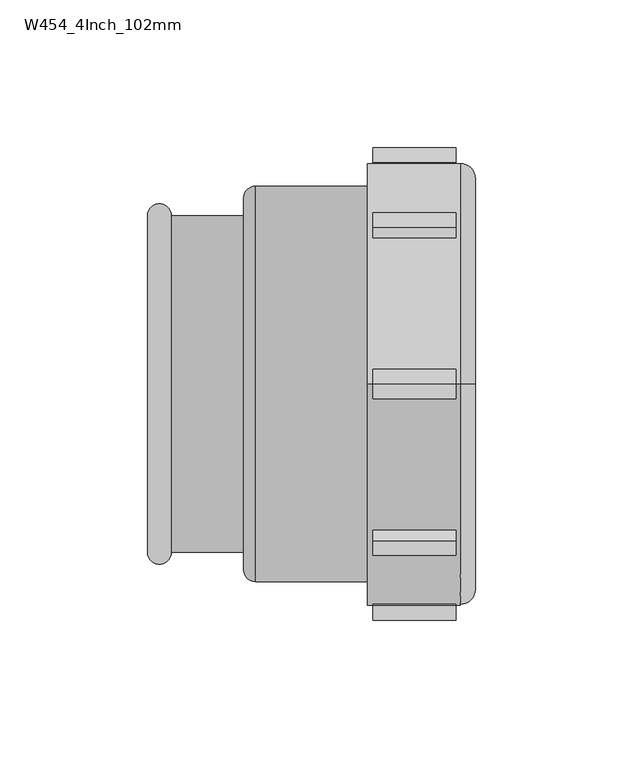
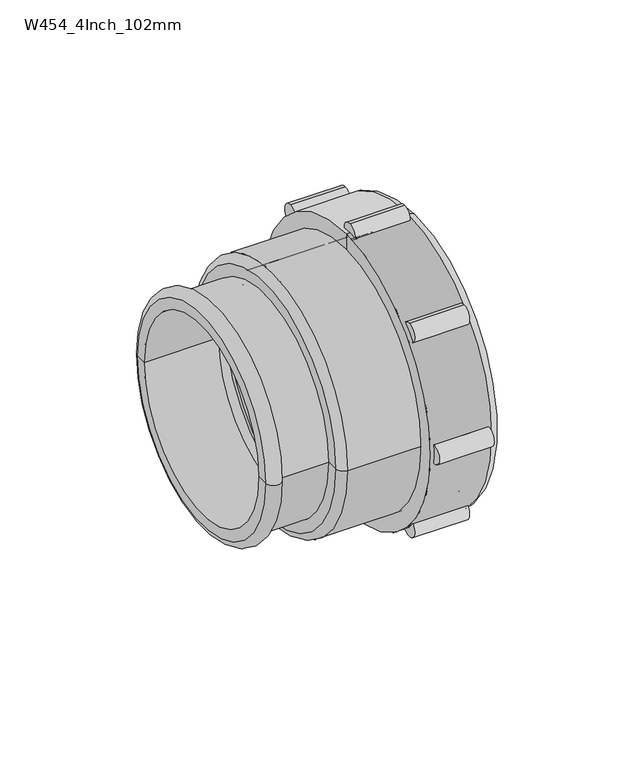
"""IFC4 building model written with IfcOpenShell, lengths in millimetres: pipe fitting geometry, Durapipe_PipeFitting_VulcatheneMechanical_GlassAdaptor_W45 : W454_4Inch_102mm."""

from ifc_helpers import new_model, si_unit, point, frame, frame_2d, origin, place, context, project, spatial, polyline, circle_curve, ellipse_curve, trimmed, segment, composite_curve, outline, extrude, source, transform, mapped, element, save
from ifc_brep_helpers import plane_surface, cylinder_surface, revolved_surface, advanced_brep


def w454_4inch_102mm_2515f706(model_context):
    return source(origin(), model_context, "Body", "SolidModel", [
        advanced_brep(
        [(50.0, 45.3962554, 45.3962554), (50.0, 39.3858477, 39.3858477), (50.0, -39.3858477, -39.3858477), (50.0, -45.3962554, -45.3962554), (28.2, -42.0021428, -42.0021428), (28.2, 42.0021428, 42.0021428), (-8.7, 42.0021428, 42.0021428), (-8.7, -42.0021428, -42.0021428), (-8.7, -40.3757972, -40.3757972), (-8.7, 40.3757972, 40.3757972), (37.3, -40.3757972, -40.3757972), (37.3, 40.3757972, 40.3757972), (37.3, -38.890873, -38.890873), (37.3, 38.890873, 38.890873), (41.8, 39.3858477, 39.3858477), (41.8, 38.890873, 38.890873), (41.8, -38.890873, -38.890873), (41.8, -39.3858477, -39.3858477)],
        [
            (0, 1),
            (1, 2, circle_curve(frame((50.0, 0.0, 0.0), z_axis=(-1.0, 0.0, 0.0), x_axis=(0.0, -0.7071067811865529, -0.7071067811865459)), 55.7)),
            (2, 3),
            (3, 0, circle_curve(frame((50.0, 0.0, 0.0), z_axis=(1.0, 0.0, 0.0), x_axis=(0.0, -0.7071067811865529, -0.7071067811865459)), 64.2)),
            (2, 1, circle_curve(frame((50.0, 0.0, 0.0), z_axis=(-1.0, 0.0, 0.0), x_axis=(0.0, -0.7071067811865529, -0.7071067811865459)), 55.7)),
            (0, 3, circle_curve(frame((50.0, 0.0, 0.0), z_axis=(1.0, 0.0, 0.0), x_axis=(0.0, -0.7071067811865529, -0.7071067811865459)), 64.2)),
            (3, 4),
            (4, 5, circle_curve(frame((28.2, 0.0, 0.0), z_axis=(1.0, 0.0, 0.0), x_axis=(0.0, -0.7071067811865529, -0.7071067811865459)), 59.4)),
            (5, 0),
            (5, 4, circle_curve(frame((28.2, 0.0, 0.0), z_axis=(1.0, 0.0, 0.0), x_axis=(0.0, -0.7071067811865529, -0.7071067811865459)), 59.4)),
            (6, 5),
            (4, 7),
            (7, 6, circle_curve(frame((-8.7, 0.0, 0.0), z_axis=(1.0, 0.0, 0.0), x_axis=(0.0, -0.7071067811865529, -0.7071067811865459)), 59.4)),
            (6, 7, circle_curve(frame((-8.7, 0.0, 0.0), z_axis=(1.0, 0.0, 0.0), x_axis=(0.0, -0.7071067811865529, -0.7071067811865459)), 59.4)),
            (7, 8),
            (8, 9, circle_curve(frame((-8.7, 0.0, 0.0), z_axis=(1.0, 0.0, 0.0), x_axis=(0.0, -0.7071067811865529, -0.7071067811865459)), 57.1)),
            (9, 6),
            (9, 8, circle_curve(frame((-8.7, 0.0, 0.0), z_axis=(1.0, 0.0, 0.0), x_axis=(0.0, -0.7071067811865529, -0.7071067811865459)), 57.1)),
            (8, 10),
            (10, 11, circle_curve(frame((37.3, 0.0, 0.0), z_axis=(1.0, 0.0, 0.0), x_axis=(0.0, -0.7071067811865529, -0.7071067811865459)), 57.1)),
            (11, 9),
            (11, 10, circle_curve(frame((37.3, 0.0, 0.0), z_axis=(1.0, 0.0, 0.0), x_axis=(0.0, -0.7071067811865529, -0.7071067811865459)), 57.1)),
            (10, 12),
            (12, 13, circle_curve(frame((37.3, 0.0, 0.0), z_axis=(1.0, 0.0, 0.0), x_axis=(0.0, -0.7071067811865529, -0.7071067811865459)), 55.0)),
            (13, 11),
            (13, 12, circle_curve(frame((37.3, 0.0, 0.0), z_axis=(1.0, 0.0, 0.0), x_axis=(0.0, -0.7071067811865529, -0.7071067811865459)), 55.0)),
            (14, 15),
            (15, 16, circle_curve(frame((41.8, 0.0, 0.0), z_axis=(-1.0, 0.0, 0.0), x_axis=(0.0, -0.7071067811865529, -0.7071067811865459)), 55.0)),
            (16, 17),
            (17, 14, circle_curve(frame((41.8, 0.0, 0.0), z_axis=(1.0, 0.0, 0.0), x_axis=(0.0, -0.7071067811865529, -0.7071067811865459)), 55.7)),
            (16, 15, circle_curve(frame((41.8, 0.0, 0.0), z_axis=(-1.0, 0.0, 0.0), x_axis=(0.0, -0.7071067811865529, -0.7071067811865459)), 55.0)),
            (14, 17, circle_curve(frame((41.8, 0.0, 0.0), z_axis=(1.0, 0.0, 0.0), x_axis=(0.0, -0.7071067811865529, -0.7071067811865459)), 55.7)),
            (1, 14),
            (17, 2),
            (12, 16),
            (15, 13),
        ],
        [
            plane_surface(frame((50.0, 0.0, 0.0), z_axis=(1.0, 0.0, 0.0), x_axis=(0.0, -0.707106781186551, -0.707106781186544))),
            revolved_surface(polyline([(50.0, -45.3962554, -45.3962554), (28.2, -42.0021428, -42.0021428)]), (55.0, 0.0, 0.0), (-1.0000000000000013, 0.0, 0.0)),
            cylinder_surface(frame((-10.7706557, 0.0, 0.0), z_axis=(-1.0000000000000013, 0.0, 0.0), x_axis=(0.0, -0.7071067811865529, -0.7071067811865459)), 59.4),
            plane_surface(frame((-8.7, 0.0, 0.0), z_axis=(-1.0, 0.0, 0.0), x_axis=(0.0, -0.707106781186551, -0.707106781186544))),
            revolved_surface(polyline([(-8.69999999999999, -40.37579720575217, -40.37579720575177), (37.300000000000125, -40.37579720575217, -40.37579720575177)]), (-12.192991, 0.0, 0.0), (-1.0000000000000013, 0.0, 0.0)),
            plane_surface(frame((37.3, 0.0, 0.0), z_axis=(-1.0, 0.0, 0.0), x_axis=(0.0, -0.707106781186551, -0.707106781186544))),
            plane_surface(frame((41.8, 0.0, 0.0), z_axis=(1.0, 0.0, 0.0), x_axis=(0.0, -0.707106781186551, -0.707106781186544))),
            revolved_surface(polyline([(41.79999999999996, -39.385847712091, -39.38584771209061), (49.999999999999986, -39.385847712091, -39.38584771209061)]), (55.0, 0.0, 0.0), (-1.0000000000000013, 0.0, 0.0)),
            revolved_surface(polyline([(37.299999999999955, -38.89087296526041, -38.89087296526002), (41.79999999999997, -38.89087296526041, -38.89087296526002)]), (51.5661924, 0.0, 0.0), (-1.0000000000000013, 0.0, 0.0)),
        ],
        [
            (0, [[1, 2, 3, 4]]),
            (0, [[5, -1, 6, -3]]),
            (1, [[7, 8, 9, -4]]),
            (1, [[-9, 10, -7, -6]]),
            (2, [[11, -8, 12, 13]]),
            (2, [[-10, -11, 14, -12]]),
            (3, [[15, 16, 17, -13]]),
            (3, [[-17, 18, -15, -14]]),
            (4, [[-16, 19, 20, 21]]),
            (4, [[22, -19, -18, -21]]),
            (5, [[23, 24, 25, -20]]),
            (5, [[-25, 26, -23, -22]]),
            (6, [[27, 28, 29, 30]]),
            (6, [[-29, 31, -27, 32]]),
            (7, [[33, -30, 34, -2]]),
            (7, [[-34, -32, -33, -5]]),
            (8, [[-24, 35, -28, 36]]),
            (8, [[-31, -35, -26, -36]]),
        ],
    ),
        advanced_brep(
        [(19.0, 0.0, 75.0), (50.5, 0.0, 75.0), (50.5, 0.0, -75.0), (19.0, 0.0, -75.0), (19.0, 0.0, 66.0), (19.0, 0.0, -66.0), (55.5, 0.0, 70.0), (55.5, 0.0, 57.5), (55.5, 0.0, -57.5), (55.5, 0.0, -70.0), (50.0, 0.0, 66.0), (50.0, 0.0, -66.0), (50.0, 0.0, 57.5), (50.0, 0.0, -57.5)],
        [
            (0, 1),
            (1, 2, circle_curve(frame((50.5, 0.0, 0.0), z_axis=(-1.0, 0.0, 0.0), x_axis=(0.0, 0.0, -1.0000000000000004)), 75.0)),
            (2, 3),
            (3, 0, circle_curve(frame((19.0, 0.0, 0.0), z_axis=(1.0, 0.0, 0.0), x_axis=(0.0, 0.0, -1.0000000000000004)), 75.0)),
            (2, 1, circle_curve(frame((50.5, 0.0, 0.0), z_axis=(-1.0, 0.0, 0.0), x_axis=(0.0, 0.0, -1.0000000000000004)), 75.0)),
            (0, 3, circle_curve(frame((19.0, 0.0, 0.0), z_axis=(1.0, 0.0, 0.0), x_axis=(0.0, 0.0, -1.0000000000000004)), 75.0)),
            (4, 0),
            (3, 5),
            (5, 4, circle_curve(frame((19.0, 0.0, 0.0), z_axis=(1.0, 0.0, 0.0), x_axis=(0.0, 0.0, -1.0000000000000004)), 66.0)),
            (4, 5, circle_curve(frame((19.0, 0.0, 0.0), z_axis=(1.0, 0.0, 0.0), x_axis=(0.0, 0.0, -1.0000000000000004)), 66.0)),
            (6, 7),
            (7, 8, circle_curve(frame((55.5, 0.0, 0.0), z_axis=(-1.0, 0.0, 0.0), x_axis=(0.0, 0.0, -1.0000000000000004)), 57.5)),
            (8, 9),
            (9, 6, circle_curve(frame((55.5, 0.0, 0.0), z_axis=(1.0, 0.0, 0.0), x_axis=(0.0, 0.0, -1.0000000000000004)), 70.0)),
            (8, 7, circle_curve(frame((55.5, 0.0, 0.0), z_axis=(-1.0, 0.0, 0.0), x_axis=(0.0, 0.0, -1.0000000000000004)), 57.5)),
            (6, 9, circle_curve(frame((55.5, 0.0, 0.0), z_axis=(1.0, 0.0, 0.0), x_axis=(0.0, 0.0, -1.0000000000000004)), 70.0)),
            (1, 6, circle_curve(frame((50.5, 0.0, 70.0), z_axis=(0.0, 1.0000000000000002, 0.0), x_axis=(1.0000000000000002, 0.0, 0.0)), 5.0)),
            (9, 2, circle_curve(frame((50.5, 0.0, -70.0), z_axis=(0.0, 1.0000000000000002, 0.0), x_axis=(1.0000000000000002, 0.0, 0.0)), 5.0)),
            (10, 4),
            (5, 11),
            (11, 10, circle_curve(frame((50.0, 0.0, 0.0), z_axis=(1.0, 0.0, 0.0), x_axis=(0.0, 0.0, -1.0000000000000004)), 66.0)),
            (10, 11, circle_curve(frame((50.0, 0.0, 0.0), z_axis=(1.0, 0.0, 0.0), x_axis=(0.0, 0.0, -1.0000000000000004)), 66.0)),
            (12, 10),
            (11, 13),
            (13, 12, circle_curve(frame((50.0, 0.0, 0.0), z_axis=(1.0, 0.0, 0.0), x_axis=(0.0, 0.0, -1.0000000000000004)), 57.5)),
            (12, 13, circle_curve(frame((50.0, 0.0, 0.0), z_axis=(1.0, 0.0, 0.0), x_axis=(0.0, 0.0, -1.0000000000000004)), 57.5)),
            (7, 12),
            (13, 8),
        ],
        [
            cylinder_surface(frame((1616.3018184, 0.0, 0.0), z_axis=(-1.0000000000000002, 0.0, 0.0), x_axis=(0.0, 0.0, -1.0000000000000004)), 75.0),
            plane_surface(frame((19.0, 0.0, 0.0), z_axis=(-1.0, 0.0, 0.0), x_axis=(0.0, 0.0, -1.0))),
            plane_surface(frame((55.5, 0.0, 0.0), z_axis=(1.0, 0.0, 0.0), x_axis=(0.0, 0.0, -1.0))),
            revolved_surface(trimmed(ellipse_curve(frame((50.5, 0.0, -70.0), z_axis=(0.0, 1.0000000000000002, 0.0), x_axis=(1.0000000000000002, 0.0, 0.0)), 5.0, 5.0), [point((55.5, 0.0, -70.0))], [point((50.5, 0.0, -75.0))], True, "CARTESIAN"), (1616.3018184, 0.0, 0.0), (-1.0000000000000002, 0.0, 0.0)),
            revolved_surface(polyline([(18.99999999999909, 0.0, -66.00000000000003), (49.99999999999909, 0.0, -66.00000000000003)]), (1616.3018184, 0.0, 0.0), (-1.0000000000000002, 0.0, 0.0)),
            plane_surface(frame((50.0, 0.0, 0.0), z_axis=(-1.0, 0.0, 0.0), x_axis=(0.0, 0.0, -1.0))),
            revolved_surface(polyline([(49.99999999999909, 0.0, -57.50000000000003), (55.49999999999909, 0.0, -57.50000000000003)]), (1616.3018184, 0.0, 0.0), (-1.0000000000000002, 0.0, 0.0)),
        ],
        [
            (0, [[1, 2, 3, 4]]),
            (0, [[-3, 5, -1, 6]]),
            (1, [[7, -4, 8, 9]]),
            (1, [[-8, -6, -7, 10]]),
            (2, [[11, 12, 13, 14]]),
            (2, [[-13, 15, -11, 16]]),
            (3, [[17, -14, 18, -2]]),
            (3, [[-18, -16, -17, -5]]),
            (4, [[19, -9, 20, 21]]),
            (4, [[-20, -10, -19, 22]]),
            (5, [[23, -21, 24, 25]]),
            (5, [[-24, -22, -23, 26]]),
            (6, [[27, -25, 28, -12]]),
            (6, [[-28, -26, -27, -15]]),
        ],
    ),
        extrude(outline(composite_curve([segment(trimmed(circle_curve(frame_2d((-75.0, 0.0)), 5.0), [point((-75.0, 5.0))], [point((-75.0, -5.0))], False, "CARTESIAN"), True, "CONTINUOUS"), segment(trimmed(circle_curve(frame_2d((-75.0, 0.0)), 5.0), [point((-75.0, -5.0))], [point((-75.0, 5.0))], False, "CARTESIAN"), True, "CONTINUOUS")], self_intersect=False)), frame((20.8, 0.0, 0.0), z_axis=(1.0, 0.0, 0.0), x_axis=(0.0, 1.0, 0.0)), (0.0, 0.0, 1.0), 28.2),
        extrude(outline(composite_curve([segment(trimmed(circle_curve(frame_2d((-53.0330086, -53.0330086)), 5.0), [point((-53.0330086, -48.0330086))], [point((-53.0330086, -58.0330086))], False, "CARTESIAN"), True, "CONTINUOUS"), segment(trimmed(circle_curve(frame_2d((-53.0330086, -53.0330086)), 5.0), [point((-53.0330086, -58.0330086))], [point((-53.0330086, -48.0330086))], False, "CARTESIAN"), True, "CONTINUOUS")], self_intersect=False)), frame((20.8, 0.0, 0.0), z_axis=(1.0, 0.0, 0.0), x_axis=(0.0, 1.0, 0.0)), (0.0, 0.0, 1.0), 28.2),
        extrude(outline(composite_curve([segment(trimmed(circle_curve(frame_2d((0.0, -75.0)), 5.0), [point((0.0, -70.0))], [point((0.0, -80.0))], False, "CARTESIAN"), True, "CONTINUOUS"), segment(trimmed(circle_curve(frame_2d((0.0, -75.0)), 5.0), [point((0.0, -80.0))], [point((0.0, -70.0))], False, "CARTESIAN"), True, "CONTINUOUS")], self_intersect=False)), frame((20.8, 0.0, 0.0), z_axis=(1.0, 0.0, 0.0), x_axis=(0.0, 1.0, 0.0)), (0.0, 0.0, 1.0), 28.2),
        extrude(outline(composite_curve([segment(trimmed(circle_curve(frame_2d((53.0330086, -53.0330086)), 5.0), [point((53.0330086, -48.0330086))], [point((53.0330086, -58.0330086))], False, "CARTESIAN"), True, "CONTINUOUS"), segment(trimmed(circle_curve(frame_2d((53.0330086, -53.0330086)), 5.0), [point((53.0330086, -58.0330086))], [point((53.0330086, -48.0330086))], False, "CARTESIAN"), True, "CONTINUOUS")], self_intersect=False)), frame((20.8, 0.0, 0.0), z_axis=(1.0, 0.0, 0.0), x_axis=(0.0, 1.0, 0.0)), (0.0, 0.0, 1.0), 28.2),
        extrude(outline(composite_curve([segment(trimmed(circle_curve(frame_2d((75.0, 0.0)), 5.0), [point((75.0, 5.0))], [point((75.0, -5.0))], False, "CARTESIAN"), True, "CONTINUOUS"), segment(trimmed(circle_curve(frame_2d((75.0, 0.0)), 5.0), [point((75.0, -5.0))], [point((75.0, 5.0))], False, "CARTESIAN"), True, "CONTINUOUS")], self_intersect=False)), frame((20.8, 0.0, 0.0), z_axis=(1.0, 0.0, 0.0), x_axis=(0.0, 1.0, 0.0)), (0.0, 0.0, 1.0), 28.2),
        extrude(outline(composite_curve([segment(trimmed(circle_curve(frame_2d((53.0330086, 53.0330086)), 5.0), [point((53.0330086, 58.0330086))], [point((53.0330086, 48.0330086))], False, "CARTESIAN"), True, "CONTINUOUS"), segment(trimmed(circle_curve(frame_2d((53.0330086, 53.0330086)), 5.0), [point((53.0330086, 48.0330086))], [point((53.0330086, 58.0330086))], False, "CARTESIAN"), True, "CONTINUOUS")], self_intersect=False)), frame((20.8, 0.0, 0.0), z_axis=(1.0, 0.0, 0.0), x_axis=(0.0, 1.0, 0.0)), (0.0, 0.0, 1.0), 28.2),
        extrude(outline(composite_curve([segment(trimmed(circle_curve(frame_2d((0.0, 75.0)), 5.0), [point((0.0, 80.0))], [point((0.0, 70.0))], False, "CARTESIAN"), True, "CONTINUOUS"), segment(trimmed(circle_curve(frame_2d((0.0, 75.0)), 5.0), [point((0.0, 70.0))], [point((0.0, 80.0))], False, "CARTESIAN"), True, "CONTINUOUS")], self_intersect=False)), frame((20.8, 0.0, 0.0), z_axis=(1.0, 0.0, 0.0), x_axis=(0.0, 1.0, 0.0)), (0.0, 0.0, 1.0), 28.2),
        extrude(outline(composite_curve([segment(trimmed(circle_curve(frame_2d((-53.0330086, 53.0330086)), 5.0), [point((-53.0330086, 58.0330086))], [point((-53.0330086, 48.0330086))], False, "CARTESIAN"), True, "CONTINUOUS"), segment(trimmed(circle_curve(frame_2d((-53.0330086, 53.0330086)), 5.0), [point((-53.0330086, 48.0330086))], [point((-53.0330086, 58.0330086))], False, "CARTESIAN"), True, "CONTINUOUS")], self_intersect=False)), frame((20.8, 0.0, 0.0), z_axis=(1.0, 0.0, 0.0), x_axis=(0.0, 1.0, 0.0)), (0.0, 0.0, 1.0), 28.2),
        advanced_brep(
        [(-18.9, -66.95, 0.0), (-18.9, 66.95, 0.0), (50.1, 66.95, 0.0), (50.1, -66.95, 0.0), (-22.9, -57.0, 0.0), (-22.9, 57.0, 0.0), (-22.9, 62.95, 0.0), (-22.9, -62.95, 0.0), (-47.5, -57.0, 0.0), (-47.5, 57.0, 0.0), (-55.5, -51.3, 0.0), (-55.5, 51.3, 0.0), (-55.5, 57.0, 0.0), (-55.5, -57.0, 0.0), (-17.3, -51.3, 0.0), (-17.3, 51.3, 0.0), (-17.3, -60.75, 0.0), (-17.3, 60.75, 0.0), (50.1, -60.75, 0.0), (50.1, 60.75, 0.0)],
        [
            (0, 1, circle_curve(frame((-18.9, 0.0, 0.0), z_axis=(1.0, 0.0, 0.0), x_axis=(0.0, 1.0, 0.0)), 66.95)),
            (1, 2),
            (2, 3, circle_curve(frame((50.1, 0.0, 0.0), z_axis=(-1.0, 0.0, 0.0), x_axis=(0.0, 1.0, 0.0)), 66.95)),
            (3, 0),
            (1, 0, circle_curve(frame((-18.9, 0.0, 0.0), z_axis=(1.0, 0.0, 0.0), x_axis=(0.0, 1.0, 0.0)), 66.95)),
            (3, 2, circle_curve(frame((50.1, 0.0, 0.0), z_axis=(-1.0, 0.0, 0.0), x_axis=(0.0, 1.0, 0.0)), 66.95)),
            (4, 5, circle_curve(frame((-22.9, 0.0, 0.0), z_axis=(1.0, 0.0, 0.0), x_axis=(0.0, 1.0, 0.0)), 57.0)),
            (5, 6),
            (6, 7, circle_curve(frame((-22.9, 0.0, 0.0), z_axis=(-1.0, 0.0, 0.0), x_axis=(0.0, 1.0, 0.0)), 62.95)),
            (7, 4),
            (5, 4, circle_curve(frame((-22.9, 0.0, 0.0), z_axis=(1.0, 0.0, 0.0), x_axis=(0.0, 1.0, 0.0)), 57.0)),
            (7, 6, circle_curve(frame((-22.9, 0.0, 0.0), z_axis=(-1.0, 0.0, 0.0), x_axis=(0.0, 1.0, 0.0)), 62.95)),
            (8, 9, circle_curve(frame((-47.5, 0.0, 0.0), z_axis=(1.0, 0.0, 0.0), x_axis=(0.0, 1.0, 0.0)), 57.0)),
            (9, 5),
            (4, 8),
            (9, 8, circle_curve(frame((-47.5, 0.0, 0.0), z_axis=(1.0, 0.0, 0.0), x_axis=(0.0, 1.0, 0.0)), 57.0)),
            (10, 11, circle_curve(frame((-55.5, 0.0, 0.0), z_axis=(1.0, 0.0, 0.0), x_axis=(0.0, 1.0, 0.0)), 51.3)),
            (11, 12),
            (12, 13, circle_curve(frame((-55.5, 0.0, 0.0), z_axis=(-1.0, 0.0, 0.0), x_axis=(0.0, 1.0, 0.0)), 57.0)),
            (13, 10),
            (11, 10, circle_curve(frame((-55.5, 0.0, 0.0), z_axis=(1.0, 0.0, 0.0), x_axis=(0.0, 1.0, 0.0)), 51.3)),
            (13, 12, circle_curve(frame((-55.5, 0.0, 0.0), z_axis=(-1.0, 0.0, 0.0), x_axis=(0.0, 1.0, 0.0)), 57.0)),
            (14, 15, circle_curve(frame((-17.3, 0.0, 0.0), z_axis=(1.0, 0.0, 0.0), x_axis=(0.0, 1.0, 0.0)), 51.3)),
            (15, 11),
            (10, 14),
            (15, 14, circle_curve(frame((-17.3, 0.0, 0.0), z_axis=(1.0, 0.0, 0.0), x_axis=(0.0, 1.0, 0.0)), 51.3)),
            (16, 17, circle_curve(frame((-17.3, 0.0, 0.0), z_axis=(1.0, 0.0, 0.0), x_axis=(0.0, 1.0, 0.0)), 60.75)),
            (17, 15),
            (14, 16),
            (17, 16, circle_curve(frame((-17.3, 0.0, 0.0), z_axis=(1.0, 0.0, 0.0), x_axis=(0.0, 1.0, 0.0)), 60.75)),
            (18, 19, circle_curve(frame((50.1, 0.0, 0.0), z_axis=(1.0, 0.0, 0.0), x_axis=(0.0, 1.0, 0.0)), 60.75)),
            (19, 17),
            (16, 18),
            (19, 18, circle_curve(frame((50.1, 0.0, 0.0), z_axis=(1.0, 0.0, 0.0), x_axis=(0.0, 1.0, 0.0)), 60.75)),
            (2, 19),
            (18, 3),
            (12, 9, circle_curve(frame((-51.5, 57.0, 0.0), z_axis=(0.0, 0.0, -1.0), x_axis=(1.0, 0.0, 0.0)), 4.0)),
            (8, 13, circle_curve(frame((-51.5, -57.0, 0.0), z_axis=(0.0, 0.0, -1.0), x_axis=(1.0, 0.0, 0.0)), 4.0)),
            (6, 1, circle_curve(frame((-18.9, 62.95, 0.0), z_axis=(0.0, 0.0, -1.0), x_axis=(1.0, 0.0, 0.0)), 4.0)),
            (0, 7, circle_curve(frame((-18.9, -62.95, 0.0), z_axis=(0.0, 0.0, -1.0), x_axis=(1.0, 0.0, 0.0)), 4.0)),
        ],
        [
            cylinder_surface(frame((-44.532225, 0.0, 0.0), z_axis=(-1.0, 0.0, 0.0), x_axis=(0.0, 1.0, 0.0)), 66.95),
            plane_surface(frame((-22.9, 0.0, 0.0), z_axis=(-1.0, 0.0, 0.0), x_axis=(0.0, 1.0, 0.0))),
            cylinder_surface(frame((-44.532225, 0.0, 0.0), z_axis=(-1.0, 0.0, 0.0), x_axis=(0.0, 1.0, 0.0)), 57.0),
            plane_surface(frame((-55.5, 0.0, 0.0), z_axis=(-1.0, 0.0, 0.0), x_axis=(0.0, 1.0, 0.0))),
            revolved_surface(polyline([(-55.5, 51.3, 0.0), (-17.3, 51.3, 0.0)]), (-44.532225, 0.0, 0.0), (-1.0, 0.0, 0.0)),
            plane_surface(frame((-17.3, 0.0, 0.0), z_axis=(1.0, 0.0, 0.0), x_axis=(0.0, 1.0, 0.0))),
            revolved_surface(polyline([(-17.3, 60.75, 0.0), (50.10000000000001, 60.75, 0.0)]), (-44.532225, 0.0, 0.0), (-1.0, 0.0, 0.0)),
            plane_surface(frame((50.1, 0.0, 0.0), z_axis=(1.0, 0.0, 0.0), x_axis=(0.0, 1.0, 0.0))),
            revolved_surface(trimmed(ellipse_curve(frame((-51.5, 57.0, 0.0), z_axis=(0.0, 0.0, 1.0), x_axis=(1.0, 0.0, 0.0)), 4.0, 4.0), [point((-47.5, 57.0, 0.0))], [point((-55.5, 57.0, 0.0))], True, "CARTESIAN"), (-44.532225, 0.0, 0.0), (-1.0, 0.0, 0.0)),
            revolved_surface(trimmed(ellipse_curve(frame((-18.9, 62.95, 0.0), z_axis=(0.0, 0.0, 1.0), x_axis=(1.0, 0.0, 0.0)), 4.0, 4.0), [point((-18.9, 66.95, 0.0))], [point((-22.9, 62.95, 0.0))], True, "CARTESIAN"), (-44.532225, 0.0, 0.0), (-1.0, 0.0, 0.0)),
        ],
        [
            (0, [[1, 2, 3, 4]]),
            (0, [[5, -4, 6, -2]]),
            (1, [[7, 8, 9, 10]]),
            (1, [[11, -10, 12, -8]]),
            (2, [[13, 14, -7, 15]]),
            (2, [[16, -15, -11, -14]]),
            (3, [[17, 18, 19, 20]]),
            (3, [[21, -20, 22, -18]]),
            (4, [[23, 24, -17, 25]]),
            (4, [[26, -25, -21, -24]]),
            (5, [[27, 28, -23, 29]]),
            (5, [[30, -29, -26, -28]]),
            (6, [[31, 32, -27, 33]]),
            (6, [[34, -33, -30, -32]]),
            (7, [[-3, 35, -31, 36]]),
            (7, [[-6, -36, -34, -35]]),
            (8, [[-19, 37, -13, 38]]),
            (8, [[-22, -38, -16, -37]]),
            (9, [[-9, 39, -1, 40]]),
            (9, [[-12, -40, -5, -39]]),
        ],
    ),
    ])


if __name__ == "__main__":
    model = new_model("IFC4")
    model_context = context("Model", 3, world=origin())
    ifc_project = project(units=[si_unit("LENGTHUNIT", "METRE", prefix="MILLI")], contexts=[model_context])
    site = spatial("IfcSite", under=ifc_project)
    building = spatial("IfcBuilding", under=site)
    placement = place(None, origin())
    w454_4inch_102mm_shape = w454_4inch_102mm_2515f706(model_context)
    element("IfcPipeFitting", 1, ObjectType="Durapipe_PipeFitting_VulcatheneMechanical_GlassAdaptor_W45 : W454_4Inch_102mm", at=placement, inside=building, context=model_context, shape_type="MappedRepresentation", body=[
        mapped(w454_4inch_102mm_shape, transform((0.0, 0.0, 0.0), x_axis=(1.0, 0.0, 0.0), y_axis=(0.0, 1.0, 0.0), z_axis=(0.0, 0.0, 1.0))),
    ])
    save(model, "model.ifc")
